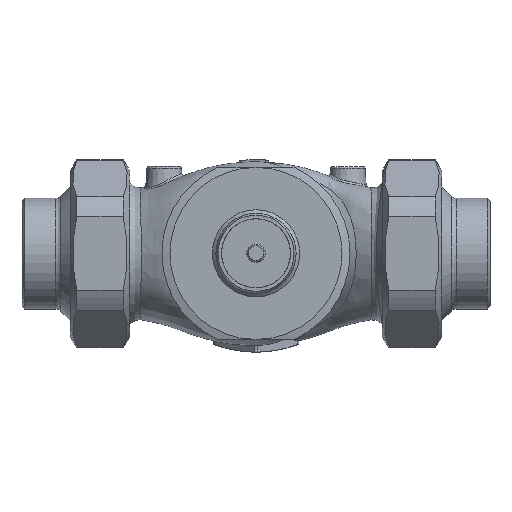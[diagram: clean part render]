
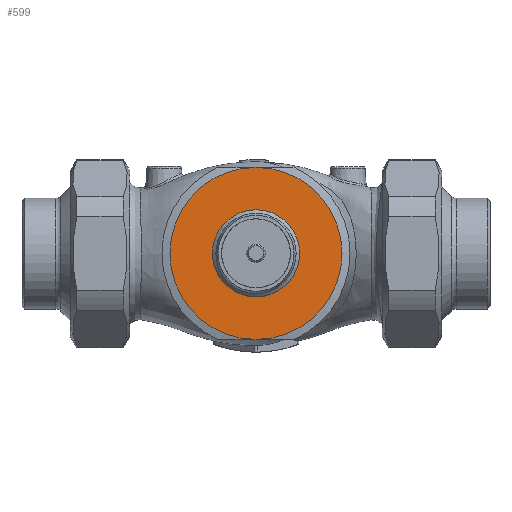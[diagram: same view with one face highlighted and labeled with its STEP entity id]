
A CAD part, top view. The second image highlights one B-rep face of the part: STEP entity #599.
In plain terms, the highlighted planar face has unit normal (0, 0, 1).
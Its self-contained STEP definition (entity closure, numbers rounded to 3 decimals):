
#476=PLANE('',#2590);
#599=ADVANCED_FACE('',(#844,#845),#476,.T.);
#844=FACE_BOUND('',#1091,.T.);
#845=FACE_BOUND('',#1092,.T.);
#1091=EDGE_LOOP('',(#1525,#1526));
#1092=EDGE_LOOP('',(#1527));
#1525=ORIENTED_EDGE('',*,*,#2158,.T.);
#1526=ORIENTED_EDGE('',*,*,#2159,.T.);
#1527=ORIENTED_EDGE('',*,*,#2160,.T.);
#1904=VERTEX_POINT('',#12157);
#1905=VERTEX_POINT('',#12158);
#1906=VERTEX_POINT('',#12161);
#2158=EDGE_CURVE('',#1904,#1905,#2358,.T.);
#2159=EDGE_CURVE('',#1905,#1904,#2359,.T.);
#2160=EDGE_CURVE('',#1906,#1906,#2360,.T.);
#2358=CIRCLE('',#2587,37.5);
#2359=CIRCLE('',#2588,37.5);
#2360=CIRCLE('',#2589,19.);
#2587=AXIS2_PLACEMENT_3D('',#12156,#3086,#3087);
#2588=AXIS2_PLACEMENT_3D('',#12159,#3088,#3089);
#2589=AXIS2_PLACEMENT_3D('',#12160,#3090,#3091);
#2590=AXIS2_PLACEMENT_3D('',#12162,#3092,#3093);
#3086=DIRECTION('',(0.,0.,1.));
#3087=DIRECTION('',(-1.,0.,0.));
#3088=DIRECTION('',(0.,0.,1.));
#3089=DIRECTION('',(-1.,0.,0.));
#3090=DIRECTION('',(0.,0.,-1.));
#3091=DIRECTION('',(0.,1.,0.));
#3092=DIRECTION('',(0.,0.,1.));
#3093=DIRECTION('',(-1.,0.,0.));
#12156=CARTESIAN_POINT('',(0.,0.,67.));
#12157=CARTESIAN_POINT('',(0.,37.5,67.));
#12158=CARTESIAN_POINT('',(0.,-37.5,67.));
#12159=CARTESIAN_POINT('',(0.,0.,67.));
#12160=CARTESIAN_POINT('',(0.,0.,67.));
#12161=CARTESIAN_POINT('',(0.,19.,67.));
#12162=CARTESIAN_POINT('',(-25.5,0.,67.));
